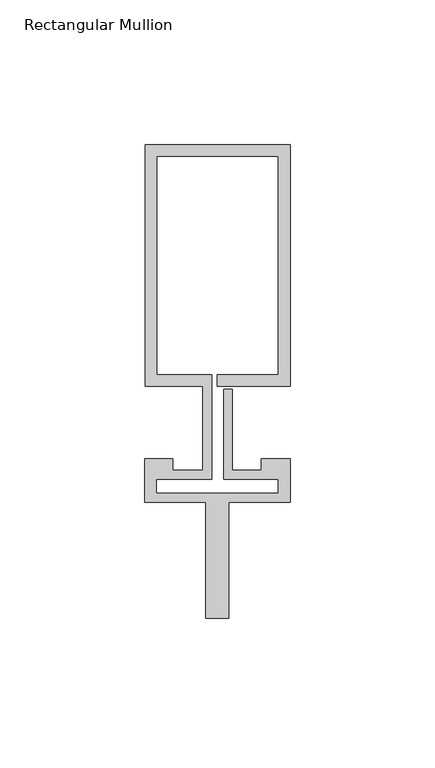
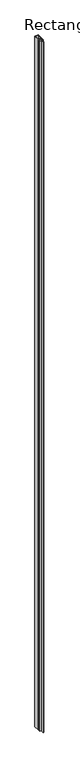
"""IFC4 building model written with IfcOpenShell, lengths in millimetres: member geometry, Rectangular Mullion : Reynaers_CW-50_Mullion-Transom_Vertical_83.5mm_Facecap-06B."""

import ifcopenshell
import ifcopenshell.guid

model = None  # the IFC model being written
_history = None  # IfcOwnerHistory: only IFC2X3 demands one
_inside = {}  # id of a spatial element -> (the spatial element, [elements in it])
_under = {}  # id of a project, library or spatial element -> (it, [spatial elements below it])
_declared = {}  # id of a project -> (the project, [libraries it declares])
_typed = {}  # id of a type object -> (the type object, [elements of that type])
_made_of = {}  # id of a material, layer set ... -> (it, [elements and type objects made of it])


def new_model(schema):
    """Start an empty IFC model of exactly this schema.

    Asked for "IFC4X3", IfcOpenShell would pick the latest addendum, in which some entities
    have other attributes; the version numbers below select the first issue.
    IFC2X3 requires an IfcOwnerHistory on every rooted entity: one is made here for all.
    """
    global model, _history
    if schema == "IFC4X3":
        model = ifcopenshell.file(schema_version=(4, 3, 0, 0))
    else:
        model = ifcopenshell.file(schema=schema)
    _inside.clear()
    _under.clear()
    _declared.clear()
    _typed.clear()
    _made_of.clear()
    _history = None
    if model.schema == "IFC2X3":
        org = make("IfcOrganization", Name="unknown")
        user = make(
            "IfcPersonAndOrganization",
            ThePerson=make("IfcPerson", FamilyName="unknown"),
            TheOrganization=org,
        )
        app = make(
            "IfcApplication",
            ApplicationDeveloper=org,
            Version="unknown",
            ApplicationFullName="unknown",
            ApplicationIdentifier="unknown",
        )
        _history = make(
            "IfcOwnerHistory",
            OwningUser=user,
            OwningApplication=app,
            ChangeAction="ADDED",
            CreationDate=0,
        )
    return model


def make(cls, **values):
    """One entity of the class cls with the attributes given. An attribute that is None is left unset."""
    return model.create_entity(
        cls, **{name: value for name, value in values.items() if value is not None}
    )


def rooted(cls, **values):
    """An entity with a GlobalId (a new one), such as an element, a storey or a relation."""
    return make(cls, GlobalId=ifcopenshell.guid.new(), OwnerHistory=_history, **values)


def si_unit(unit_type, name, prefix=None):
    """IfcSIUnit, for example si_unit("LENGTHUNIT", "METRE", prefix="MILLI")."""
    return make("IfcSIUnit", UnitType=unit_type, Prefix=prefix, Name=name)


def assignment(units):
    """IfcUnitAssignment: the units of a project."""
    return None if units is None else make("IfcUnitAssignment", Units=units)


def point(xyz):
    """IfcCartesianPoint."""
    return None if xyz is None else make("IfcCartesianPoint", Coordinates=xyz)


def direction(xyz):
    """IfcDirection."""
    return None if xyz is None else make("IfcDirection", DirectionRatios=xyz)


def frame(location, z_axis=None, x_axis=None):
    """IfcAxis2Placement3D, a coordinate frame: its origin and axes. An axis left out is left unset."""
    return make(
        "IfcAxis2Placement3D",
        Location=point(location),
        Axis=direction(z_axis),
        RefDirection=direction(x_axis),
    )


def origin():
    """The frame at (0, 0, 0) with its axes left unset."""
    return frame((0.0, 0.0, 0.0))


def place(relative_to, where):
    """IfcLocalPlacement: puts the frame where relative to a parent placement (None: the world)."""
    return make(
        "IfcLocalPlacement", PlacementRelTo=relative_to, RelativePlacement=where
    )


def context(
    kind, dimensions, precision=None, world=None, true_north=None, identifier=None
):
    """IfcGeometricRepresentationContext, for example the 3D "Model" context."""
    return make(
        "IfcGeometricRepresentationContext",
        ContextIdentifier=identifier,
        ContextType=kind,
        CoordinateSpaceDimension=dimensions,
        Precision=precision,
        WorldCoordinateSystem=world,
        TrueNorth=true_north,
    )


def project(units=None, contexts=None):
    """IfcProject with its units and contexts."""
    return rooted(
        "IfcProject",
        Name="project",
        RepresentationContexts=contexts,
        UnitsInContext=assignment(units),
    )


def spatial(cls, under=None, at=None, **own):
    """A site, building, storey or space (cls), placed at a placement, below another one or the project."""
    s = rooted(cls, ObjectPlacement=at, **own)
    if under is not None:
        _under.setdefault(under.id(), (under, []))[1].append(s)
    return s


def polyline(points):
    """IfcPolyline through the points."""
    return make("IfcPolyline", Points=[point(p) for p in points])


def outline(outer, holes=None, kind="AREA"):
    """IfcArbitraryClosedProfileDef: a profile drawn as a closed curve; with holes, ...WithVoids."""
    if holes is None:
        return make("IfcArbitraryClosedProfileDef", ProfileType=kind, OuterCurve=outer)
    return make(
        "IfcArbitraryProfileDefWithVoids",
        ProfileType=kind,
        OuterCurve=outer,
        InnerCurves=holes,
    )


def extrude(swept, where, along, depth):
    """IfcExtrudedAreaSolid: the profile swept, set in the frame where, extruded along a direction by depth."""
    return make(
        "IfcExtrudedAreaSolid",
        SweptArea=swept,
        Position=where,
        ExtrudedDirection=direction(along),
        Depth=depth,
    )


def shape(context_of_items, identifier, shape_type, items):
    """IfcShapeRepresentation: the items that make up one representation, for example the "Body"."""
    return make(
        "IfcShapeRepresentation",
        ContextOfItems=context_of_items,
        RepresentationIdentifier=identifier,
        RepresentationType=shape_type,
        Items=items,
    )


def source(mapping_origin, context_of_items, identifier, shape_type, items):
    """IfcRepresentationMap: a shape defined once, which mapped items show again and again."""
    return make(
        "IfcRepresentationMap",
        MappingOrigin=mapping_origin,
        MappedRepresentation=shape(context_of_items, identifier, shape_type, items),
    )


def transform(
    local_origin,
    x_axis=None,
    y_axis=None,
    z_axis=None,
    scale=None,
    scale2=None,
    scale3=None,
    uniform=True,
):
    """IfcCartesianTransformationOperator3D, or its non-uniform kind. x_axis, y_axis, z_axis: its Axis1, 2, 3."""
    if uniform:
        return make(
            "IfcCartesianTransformationOperator3D",
            Axis1=direction(x_axis),
            Axis2=direction(y_axis),
            LocalOrigin=point(local_origin),
            Scale=scale,
            Axis3=direction(z_axis),
        )
    return make(
        "IfcCartesianTransformationOperator3DnonUniform",
        Axis1=direction(x_axis),
        Axis2=direction(y_axis),
        LocalOrigin=point(local_origin),
        Scale=scale,
        Axis3=direction(z_axis),
        Scale2=scale2,
        Scale3=scale3,
    )


def mapped(mapping_source, mapping_target):
    """IfcMappedItem: shows the shape of a source again, moved by a transform."""
    return make(
        "IfcMappedItem", MappingSource=mapping_source, MappingTarget=mapping_target
    )


def made_of(thing, what):
    """Note that an element or type object is made of a material, layer set ...; save() writes the relation."""
    if what is not None:
        _made_of.setdefault(what.id(), (what, []))[1].append(thing)
    return thing


def element(
    cls,
    number,
    at=None,
    inside=None,
    cuts=None,
    type_object=None,
    material=None,
    context=None,
    identifier="Body",
    shape_type=None,
    held_by="IfcProductDefinitionShape",
    body=None,
    shapes=None,
    **own,
):
    """One element of the class cls, such as IfcWall. Its Tag is "e" and its number.

    at: its placement. inside: the storey or other place that contains it. cuts: it is an
    opening in that element (IfcRelVoidsElement). A single representation is given by context,
    identifier, shape_type and body (its items); several are given by shapes. held_by: the class
    of the entity that holds the representations. save() writes the other relations.
    """
    e = rooted(cls, Tag="e%d" % number, ObjectPlacement=at, **own)
    if body is not None:
        shapes = [shape(context, identifier, shape_type, body)]
    if shapes is not None:
        e.Representation = make(held_by, Representations=shapes)
    if inside is not None:
        _inside.setdefault(inside.id(), (inside, []))[1].append(e)
    if cuts is not None:
        rooted(
            "IfcRelVoidsElement", RelatingBuildingElement=cuts, RelatedOpeningElement=e
        )
    if type_object is not None:
        _typed.setdefault(type_object.id(), (type_object, []))[1].append(e)
    return made_of(e, material)


def aggregate(whole, parts):
    """IfcRelAggregates: a whole, such as a stair, and the parts it consists of."""
    return rooted("IfcRelAggregates", RelatingObject=whole, RelatedObjects=parts)


def save(model, path):
    """Write the relations noted so far, then the file.

    IfcRelAggregates (storeys below a building ...), IfcRelContainedInSpatialStructure (elements
    in a storey), IfcRelDefinesByType, IfcRelAssociatesMaterial and IfcRelDeclares: one each for
    every whole, place, type object, material and project.
    """
    for whole, parts in _under.values():
        aggregate(whole, parts)
    for where, things in _inside.values():
        rooted(
            "IfcRelContainedInSpatialStructure",
            RelatedElements=things,
            RelatingStructure=where,
        )
    for kind, things in _typed.values():
        rooted("IfcRelDefinesByType", RelatedObjects=things, RelatingType=kind)
    for what, things in _made_of.values():
        rooted("IfcRelAssociatesMaterial", RelatedObjects=things, RelatingMaterial=what)
    for by, libraries in _declared.values():
        rooted("IfcRelDeclares", RelatingContext=by, RelatedDefinitions=libraries)
    model.write(path)


def rectangular_mullion_c5a7c21c(model_context):
    return source(origin(), model_context, "Body", "SweptSolid", [
        extrude(outline(polyline([(-24.8004059, 96.0), (25.1995941, 96.0), (25.1995941, 12.5), (0.0, 12.5), (0.0, 16.5), (21.1995941, 16.5), (21.1995941, 92.0), (-20.8004059, 92.0), (-20.8004059, 16.5), (-1.9004059, 16.5), (-1.9004059, -19.5), (-20.994845, -19.5), (-20.994845, -24.4191338), (21.1995941, -24.4191338), (21.1995941, -19.5), (2.2995941, -19.5), (2.2995941, 11.5), (5.2995941, 11.5), (5.2995941, -16.5), (15.2996495, -16.5), (15.2996495, -12.5), (25.1995941, -12.5), (25.1995941, -27.5), (4.004855, -27.5), (4.004855, -67.5), (-3.995145, -67.5), (-3.995145, -27.5), (-24.994845, -27.5), (-24.994845, -12.5), (-15.2996495, -12.5), (-15.2996495, -16.5), (-4.9004059, -16.5), (-4.9004059, 12.5), (-24.8004059, 12.5), (-24.8004059, 96.0)])), frame((0.0, 0.0, -10400.0), z_axis=(0.0, 0.0, 1.0), x_axis=(1.0, 0.0, 0.0)), (0.0, 0.0, 1.0), 10400.0),
    ])


if __name__ == "__main__":
    model = new_model("IFC4")
    model_context = context("Model", 3, world=origin())
    ifc_project = project(units=[si_unit("LENGTHUNIT", "METRE", prefix="MILLI")], contexts=[model_context])
    site = spatial("IfcSite", under=ifc_project)
    building = spatial("IfcBuilding", under=site)
    placement = place(None, origin())
    rectangular_mullion_shape = rectangular_mullion_c5a7c21c(model_context)
    element("IfcMember", 1, ObjectType="Rectangular Mullion : Reynaers_CW-50_Mullion-Transom_Vertical_83.5mm_Facecap-06B", at=placement, inside=building, context=model_context, shape_type="MappedRepresentation", body=[
        mapped(rectangular_mullion_shape, transform((0.0, 0.0, 0.0), x_axis=(1.0, 0.0, 0.0), y_axis=(0.0, 1.0, 0.0), z_axis=(0.0, 0.0, 1.0))),
    ])
    save(model, "model.ifc")
